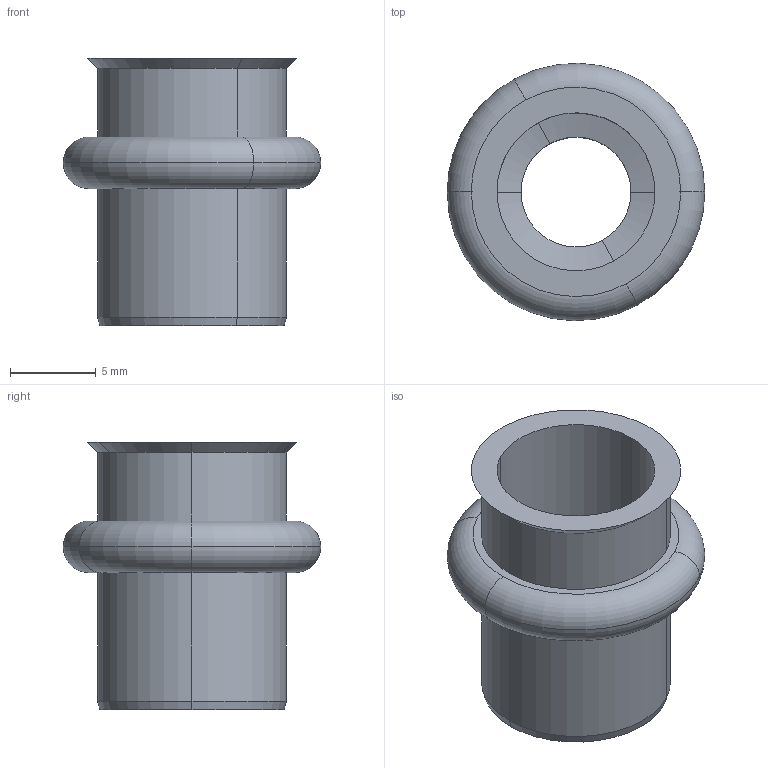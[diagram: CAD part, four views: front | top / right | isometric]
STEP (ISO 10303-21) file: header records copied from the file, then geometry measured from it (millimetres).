
FILE_DESCRIPTION(('STEP AP214'),'1');
FILE_NAME('EGT214_BLINDNIETMUTTER.CATPart.stp','2015-09-14T13:13:35',('3D-Tool'),(' '),'Spatial InterOp 3D',' ',' ');
FILE_SCHEMA(('automotive_design'));
Length unit declared in the file: millimetre
Products named in the file (1): EGT214_BLINDNIETMUTTER|PartBody|Shaft.1
Bounding box: 15 x 15 x 15.6 mm (x, y, z)
Volume: 955.1 mm3; surface area: 1196.5 mm2
Topology: 1 solids, 1 shells, 40 faces, 88 edges, 52 vertices
Faces by surface type: cylinder 16, cone 12, torus 8, plane 4
Entity records: 1461 total; most frequent: DIRECTION 230, CARTESIAN_POINT 181, ORIENTED_EDGE 176, AXIS2_PLACEMENT_3D 101, EDGE_CURVE 88, CIRCLE 60, VERTEX_POINT 52, EDGE_LOOP 44
